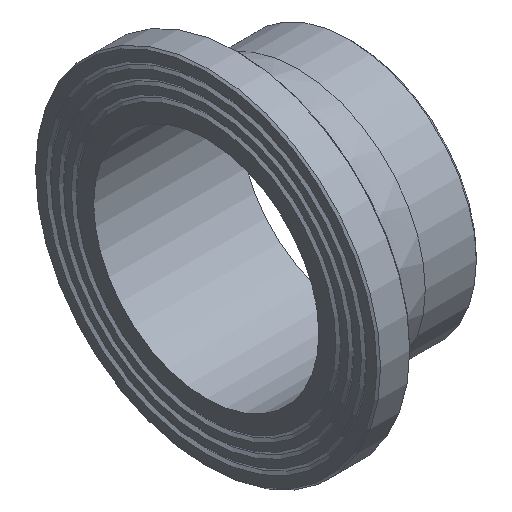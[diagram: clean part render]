
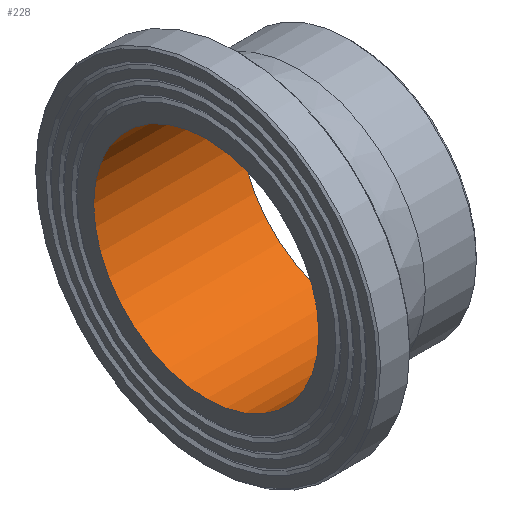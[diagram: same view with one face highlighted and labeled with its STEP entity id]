
A CAD part, isometric view. The second image highlights one B-rep face of the part: STEP entity #228.
In plain terms, the highlighted cylindrical face has radius 61.7 mm (diameter 123.4 mm), a full revolution.
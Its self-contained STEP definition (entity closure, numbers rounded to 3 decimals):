
#33=CYLINDRICAL_SURFACE('',#274,61.7);
#50=ORIENTED_EDGE('',*,*,#79,.F.);
#51=ORIENTED_EDGE('',*,*,#76,.T.);
#76=EDGE_CURVE('',#96,#96,#116,.T.);
#79=EDGE_CURVE('',#99,#99,#119,.T.);
#96=VERTEX_POINT('',#383);
#99=VERTEX_POINT('',#390);
#116=CIRCLE('',#257,61.7);
#119=CIRCLE('',#261,61.7);
#150=EDGE_LOOP('',(#50));
#151=EDGE_LOOP('',(#51));
#190=FACE_BOUND('',#150,.T.);
#191=FACE_BOUND('',#151,.T.);
#228=ADVANCED_FACE('',(#190,#191),#33,.F.);
#257=AXIS2_PLACEMENT_3D('',#382,#303,#304);
#261=AXIS2_PLACEMENT_3D('',#389,#311,#312);
#274=AXIS2_PLACEMENT_3D('',#410,#337,#338);
#303=DIRECTION('',(-1.,0.,0.));
#304=DIRECTION('',(0.,0.,1.));
#311=DIRECTION('',(-1.,0.,0.));
#312=DIRECTION('',(0.,0.,1.));
#337=DIRECTION('',(-1.,0.,0.));
#338=DIRECTION('',(0.,0.,1.));
#382=CARTESIAN_POINT('',(0.,0.,0.));
#383=CARTESIAN_POINT('',(0.,0.,61.7));
#389=CARTESIAN_POINT('',(80.,0.,0.));
#390=CARTESIAN_POINT('',(80.,0.,61.7));
#410=CARTESIAN_POINT('',(60.,0.,0.));
